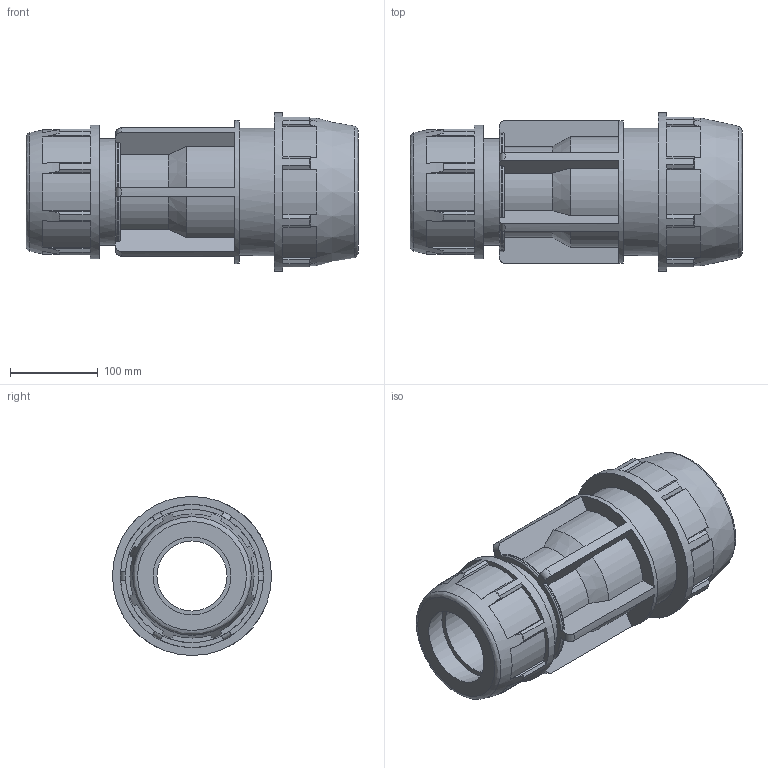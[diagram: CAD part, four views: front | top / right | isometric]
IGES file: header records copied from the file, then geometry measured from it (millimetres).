
Global section: file name: 0711M0 4-3 custom.ipt; native system: Autodesk Inventor 2019; preprocessor: unknown; author: KIM; date: 20210826.124648; units: inch
Bounding box: 378 x 181.1 x 181.1 mm (x, y, z)
Volume: 2847448.2 mm3; surface area: 398785.5 mm2
Topology: 1 solids, 1 shells, 232 faces, 685 edges, 462 vertices
Faces by surface type: plane 143, cylinder 45, cone 24, revolution 20
Full cylindrical faces by diameter (mm): 121.514 x1, 144.882 x1, 151.892 x1, 162.992 x1, 181.102 x1
